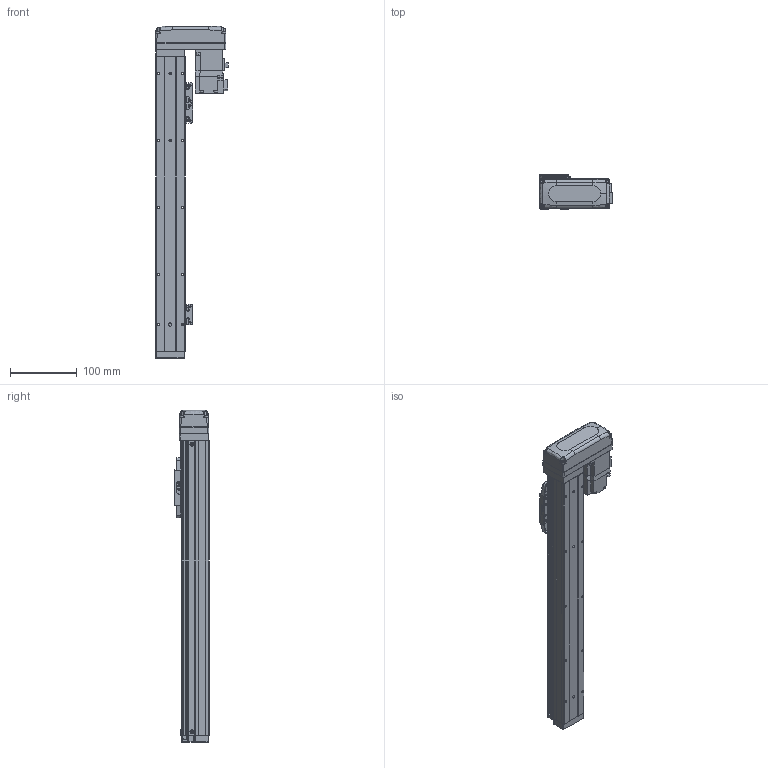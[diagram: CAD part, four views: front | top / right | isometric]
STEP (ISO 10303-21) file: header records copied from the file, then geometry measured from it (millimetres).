
FILE_DESCRIPTION (( 'STEP AP203' ), '1' );
FILE_NAME ('BTH40-300-BL-M05-C4.step', '2021-12-16T00:15:06', ( '微软用户' ), ( '微软中国' ), 'SwSTEP 2.0', 'SolidWorks 2020', '' );
FILE_SCHEMA (( 'CONFIG_CONTROL_DESIGN' ));
Length unit declared in the file: millimetre
Products named in the file (19): BTH40-006; GBT96.1-2002 3×0.8; BTH40-027-1; BTH-M3X5X6; BTH40-022; BTH50-026; GBT70.1-2000 M3×16; GBT 70.1-M2.5×6; BTH40-300-BL-M05-C4; BTH50-028; BTH40-004; BTH50-023; BTH40-013; BTH40-001-50_BTH40-001-300; BTH50-024; HG-KR13; BTH40-003; GBT 70.1-M3℅6; GBT 70.3-M3℅6
Assembly tree (47 placements, depth 2):
  BTH40-300-BL-M05-C4
    BTH40-001-50_BTH40-001-300
    BTH40-003
    BTH40-006
    BTH-M3X5X6  x8
    GBT70.1-2000 M3×16  x4
    BTH50-028  x2
    BTH50-023  x3
    BTH50-024  x3
    GBT 70.1-M3℅6  x6
    GBT96.1-2002 3×0.8  x6
    BTH40-022
    GBT 70.1-M2.5×6  x2
    BTH40-004
    BTH40-013
    HG-KR13
    GBT 70.3-M3℅6  x4
    BTH40-027-1
    BTH50-026
Bounding box: 108.8 x 52 x 496 mm (x, y, z)
Volume: 983369.7 mm3; surface area: 186484.3 mm2
Topology: 49 solids, 49 shells, 1975 faces, 4635 edges, 2850 vertices
Faces by surface type: plane 1052, cylinder 487, cone 270, torus 128, bspline 34, sphere 4
Entity records: 39395 total; most frequent: CARTESIAN_POINT 7546, DIRECTION 6168, ORIENTED_EDGE 5916, EDGE_CURVE 2958, AXIS2_PLACEMENT_3D 2107, VECTOR 1954, LINE 1954, VERTEX_POINT 1837
